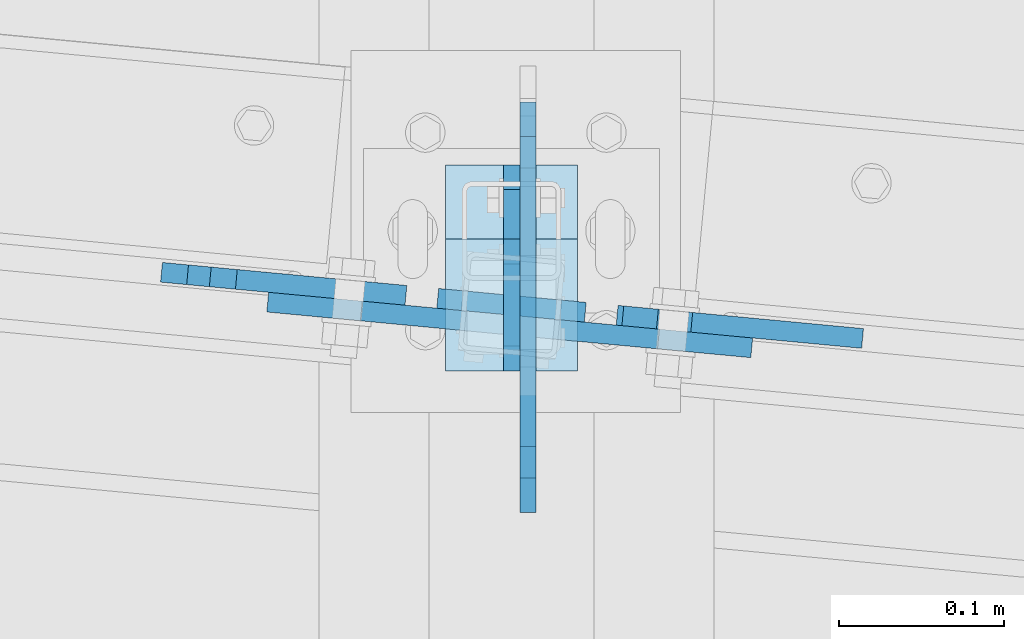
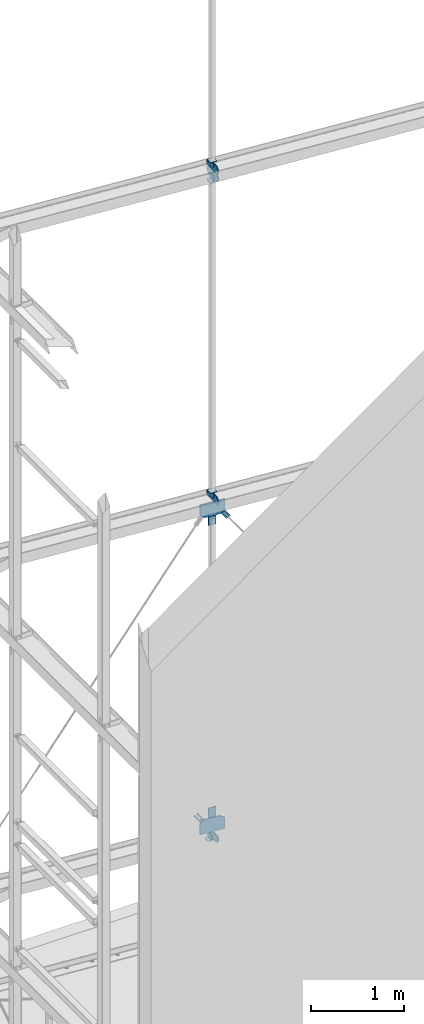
# One storey, part 155 of 271: 18 plates, 9 elements without a shape of their own.
"""IFC2X3 building model written with IfcOpenShell, lengths in millimetres."""

from ifc_helpers import new_model, si_unit, frame, origin_with_axes, place, context, subcontext, project, spatial, polyline, outline, extrude, material, type_object, element, aggregate, save


model = new_model("IFC2X3")

# Units and contexts
model_context = context("Model", 3, precision=1e-05, world=origin_with_axes())
body_context = subcontext(model_context, "Body", "Model", "MODEL_VIEW")
ifc_project = project(units=[si_unit("LENGTHUNIT", "METRE", prefix="MILLI"), si_unit("AREAUNIT", "SQUARE_METRE"), si_unit("VOLUMEUNIT", "CUBIC_METRE"), si_unit("MASSUNIT", "GRAM", prefix="KILO"), si_unit("TIMEUNIT", "SECOND"), si_unit("PLANEANGLEUNIT", "RADIAN"), si_unit("SOLIDANGLEUNIT", "STERADIAN"), si_unit("THERMODYNAMICTEMPERATUREUNIT", "DEGREE_CELSIUS"), si_unit("LUMINOUSINTENSITYUNIT", "LUMEN")], contexts=[model_context])

# Site, building, storey
site_placement = place(None, origin_with_axes())
site = spatial("IfcSite", under=ifc_project, at=site_placement, Name="Undefined", CompositionType="ELEMENT")
building_placement = place(site_placement, origin_with_axes())
building = spatial("IfcBuilding", under=site, at=building_placement, Name="Undefined", CompositionType="ELEMENT")
storey_placement = place(building_placement, origin_with_axes())
storey = spatial("IfcBuildingStorey", under=building, at=storey_placement, Name="Undefined", CompositionType="ELEMENT", Elevation=0.0)

# Assembly, plate
assembly_1_placement = place(storey_placement, origin_with_axes())
assembly_1 = element("IfcElementAssembly", 1, at=assembly_1_placement, inside=storey, AssemblyPlace="NOTDEFINED", PredefinedType="RIGID_FRAME")
ifc_material = material(Name="STEEL/S355JR")
plate_type_1 = type_object("IfcPlateType", Name="BL12*56", PredefinedType="NOTDEFINED")
plate_1_placement = place(assembly_1_placement, frame((3232.51490190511, 3999.06894896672, 5546.23705119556), z_axis=(0.0939660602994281, 0.995575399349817, -6.10020992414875e-05), x_axis=(0.162762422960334, -0.0153016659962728, 0.986546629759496)))
plate_1 = element("IfcPlate", 2, at=plate_1_placement, type_object=plate_type_1, material=ifc_material, Name="BLACHA", ObjectType="BL12*56", context=body_context, shape_type="SweptSolid", body=[
    extrude(outline(polyline([(0.0, 0.0), (21.2132034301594, 1.09139364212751e-11), (39.5646629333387, 18.3514595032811), (39.5646629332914, 39.564662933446), (-87.007453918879, 166.136779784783), (-100.796035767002, 152.34819030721), (-30.0853557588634, 81.6375198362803), (-42.0728530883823, 69.6500167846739), (-112.783531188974, 140.36070251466), (-126.57211303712, 126.57211303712), (0.0, 0.0)])), frame((0.0, 0.0, -6.0), z_axis=(0.0, 0.0, 1.0), x_axis=(1.0, 0.0, 0.0)), (0.0, 0.0, 1.0), 12.0),
])
aggregate(assembly_1, [plate_1])

assembly_2_placement = place(storey_placement, origin_with_axes())
assembly_2 = element("IfcElementAssembly", 3, at=assembly_2_placement, inside=storey, AssemblyPlace="NOTDEFINED", PredefinedType="RIGID_FRAME")
plate_2_placement = place(assembly_2_placement, frame((3104.23941246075, 4011.17988390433, 1503.71824826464), z_axis=(0.0938759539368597, 0.995583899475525, 6.61630780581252e-05), x_axis=(-0.167720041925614, 0.0158802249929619, -0.985706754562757)))
plate_2 = element("IfcPlate", 4, at=plate_2_placement, type_object=plate_type_1, material=ifc_material, Name="BLACHA", ObjectType="BL12*56", context=body_context, shape_type="SweptSolid", body=[
    extrude(outline(polyline([(0.0, 0.0), (21.2132034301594, 1.09139364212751e-11), (39.564743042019, 18.3515396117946), (39.5647430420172, 39.5647430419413), (-87.0073471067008, 166.13687133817), (-100.795928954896, 152.348297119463), (-30.0852527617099, 81.637619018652), (-42.0728530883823, 69.6500167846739), (-112.783531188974, 140.36070251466), (-126.57211303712, 126.57211303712), (0.0, 0.0)])), frame((0.0, 0.0, -6.0), z_axis=(0.0, 0.0, 1.0), x_axis=(1.0, 0.0, 0.0)), (0.0, 0.0, 1.0), 12.0),
])
aggregate(assembly_2, [plate_2])

assembly_3_placement = place(storey_placement, origin_with_axes())
assembly_3 = element("IfcElementAssembly", 5, at=assembly_3_placement, inside=storey, AssemblyPlace="NOTDEFINED", PredefinedType="RIGID_FRAME")
plate_type_2 = type_object("IfcPlateType", Name="BL10*70", PredefinedType="NOTDEFINED")
plate_3_placement = place(assembly_3_placement, frame((3168.37568709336, 4010.32498425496, 1295.74999995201), z_axis=(-1.0, 0.0, 1.38777878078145e-17), x_axis=(0.0, 0.707106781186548, 0.707106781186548)))
plate_3 = element("IfcPlate", 6, at=plate_3_placement, type_object=plate_type_2, material=ifc_material, Name="BLACHA", ObjectType="BL10*70", context=body_context, shape_type="SweptSolid", body=[
    extrude(outline(polyline([(0.0, 0.0), (21.2132034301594, 1.09139364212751e-11), (56.5685424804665, 35.3553390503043), (56.568542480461, 56.5685424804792), (17.6776695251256, 95.4594192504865), (-38.890872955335, 38.8908729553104), (0.0, 0.0)])), frame((0.0, 0.0, -5.0), z_axis=(0.0, 0.0, 1.0), x_axis=(1.0, 0.0, 0.0)), (0.0, 0.0, 1.0), 10.0),
])

# Assembly, plates
assembly_4_placement = place(storey_placement, origin_with_axes())
assembly_4 = element("IfcElementAssembly", 7, at=assembly_4_placement, inside=storey, AssemblyPlace="NOTDEFINED", PredefinedType="RIGID_FRAME")
plate_4_placement = place(assembly_4_placement, frame((3168.37568709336, 4045.32498425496, 5752.94999985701), z_axis=(-1.0, 0.0, 1.38777878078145e-17), x_axis=(0.0, -0.707106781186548, -0.707106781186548)))
plate_4 = element("IfcPlate", 8, at=plate_4_placement, type_object=plate_type_2, material=ifc_material, Name="BLACHA", ObjectType="BL10*70", context=body_context, shape_type="SweptSolid", body=[
    extrude(outline(polyline([(0.0, 0.0), (21.2132034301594, 1.09139364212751e-11), (56.5685424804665, 35.3553390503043), (56.568542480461, 56.5685424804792), (17.6776695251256, 95.4594192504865), (-38.890872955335, 38.8908729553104), (0.0, 0.0)])), frame((0.0, 0.0, -5.0), z_axis=(0.0, 0.0, 1.0), x_axis=(1.0, 0.0, 0.0)), (0.0, 0.0, 1.0), 10.0),
])
plate_5_placement = place(assembly_4_placement, frame((3168.37568709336, 3965.32498425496, 9935.74999995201), z_axis=(-1.0, 0.0, 1.38777878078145e-17), x_axis=(0.0, 0.707106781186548, 0.707106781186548)))
plate_5 = element("IfcPlate", 9, at=plate_5_placement, type_object=plate_type_2, material=ifc_material, Name="BLACHA", ObjectType="BL10*70", context=body_context, shape_type="SweptSolid", body=[
    extrude(outline(polyline([(0.0, 0.0), (21.2132034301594, 1.09139364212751e-11), (56.5685424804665, 35.3553390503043), (56.568542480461, 56.5685424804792), (17.6776695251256, 95.4594192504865), (-38.890872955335, 38.8908729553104), (0.0, 0.0)])), frame((0.0, 0.0, -5.0), z_axis=(0.0, 0.0, 1.0), x_axis=(1.0, 0.0, 0.0)), (0.0, 0.0, 1.0), 10.0),
])

# Assembly, plate
assembly_5_placement = place(storey_placement, origin_with_axes())
assembly_5 = element("IfcElementAssembly", 10, at=assembly_5_placement, inside=storey, AssemblyPlace="NOTDEFINED", PredefinedType="RIGID_FRAME")
plate_6_placement = place(assembly_5_placement, frame((3168.37568709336, 4045.32498425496, 10072.949999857), z_axis=(-1.0, 0.0, 1.38777878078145e-17), x_axis=(0.0, -0.707106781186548, -0.707106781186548)))
plate_6 = element("IfcPlate", 11, at=plate_6_placement, type_object=plate_type_2, material=ifc_material, Name="BLACHA", ObjectType="BL10*70", context=body_context, shape_type="SweptSolid", body=[
    extrude(outline(polyline([(0.0, 0.0), (21.2132034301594, 1.09139364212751e-11), (56.5685424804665, 35.3553390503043), (56.568542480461, 56.5685424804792), (17.6776695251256, 95.4594192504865), (-38.890872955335, 38.8908729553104), (0.0, 0.0)])), frame((0.0, 0.0, -5.0), z_axis=(0.0, 0.0, 1.0), x_axis=(1.0, 0.0, 0.0)), (0.0, 0.0, 1.0), 10.0),
])

assembly_6_placement = place(storey_placement, origin_with_axes())
assembly_6 = element("IfcElementAssembly", 12, at=assembly_6_placement, inside=storey, AssemblyPlace="NOTDEFINED", PredefinedType="RIGID_FRAME")
plate_type_3 = type_object("IfcPlateType", Name="BL10*100", PredefinedType="NOTDEFINED")
plate_7_placement = place(assembly_6_placement, frame((3178.37568709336, 4128.56343339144, 1360.74999995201), z_axis=(-1.0, 0.0, 1.38777878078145e-17), x_axis=(0.0, 0.0, -1.0)))
plate_7 = element("IfcPlate", 13, at=plate_7_placement, type_object=plate_type_3, material=ifc_material, Name="BLACHA", ObjectType="BL10*100", context=body_context, shape_type="SweptSolid", body=[
    extrude(outline(polyline([(0.0, 20.7716979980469), (20.7716979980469, 8.17124146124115e-14), (60.0, 4.44089209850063e-13), (100.0, 40.0000000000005), (100.0, 209.16485595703), (60.0, 249.16485595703), (20.7716979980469, 249.16485595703), (0.0, 228.393157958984), (0.0, 20.7716979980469)])), frame((0.0, 0.0, -5.0), z_axis=(0.0, 0.0, 1.0), x_axis=(1.0, 0.0, 0.0)), (0.0, 0.0, 1.0), 10.0),
])

assembly_7_placement = place(storey_placement, origin_with_axes())
assembly_7 = element("IfcElementAssembly", 14, at=assembly_7_placement, inside=storey, AssemblyPlace="NOTDEFINED", PredefinedType="RIGID_FRAME")
plate_8_placement = place(assembly_7_placement, frame((3178.37568709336, 3879.39857406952, 5687.94999985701), z_axis=(-1.0, 0.0, 1.38777878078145e-17), x_axis=(0.0, 0.0, 1.0)))
plate_8 = element("IfcPlate", 15, at=plate_8_placement, type_object=plate_type_3, material=ifc_material, Name="BLACHA", ObjectType="BL10*100", context=body_context, shape_type="SweptSolid", body=[
    extrude(outline(polyline([(0.0, 20.7716979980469), (20.7716979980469, 8.17124146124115e-14), (60.0, 4.44089209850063e-13), (100.0, 40.0000000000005), (100.0, 209.16485595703), (60.0, 249.16485595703), (20.7716979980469, 249.16485595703), (0.0, 228.393157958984), (0.0, 20.7716979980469)])), frame((0.0, 0.0, -5.0), z_axis=(0.0, 0.0, 1.0), x_axis=(1.0, 0.0, 0.0)), (0.0, 0.0, 1.0), 10.0),
])

# Assembly, plates
assembly_8_placement = place(storey_placement, origin_with_axes())
assembly_8 = element("IfcElementAssembly", 16, at=assembly_8_placement, inside=storey, AssemblyPlace="NOTDEFINED", PredefinedType="RIGID_FRAME")
plate_9_placement = place(assembly_8_placement, frame((3178.37568709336, 4128.56343339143, 10000.749999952), z_axis=(-1.0, 0.0, 1.38777878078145e-17), x_axis=(0.0, 0.0, -1.0)))
plate_9 = element("IfcPlate", 17, at=plate_9_placement, type_object=plate_type_3, material=ifc_material, Name="BLACHA", ObjectType="BL10*100", context=body_context, shape_type="SweptSolid", body=[
    extrude(outline(polyline([(0.0, 20.7716979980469), (20.7716979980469, 8.17124146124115e-14), (60.0, 4.44089209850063e-13), (100.0, 40.0000000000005), (100.0, 209.16485595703), (60.0, 249.16485595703), (20.7716979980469, 249.16485595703), (0.0, 228.393157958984), (0.0, 20.7716979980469)])), frame((0.0, 0.0, -5.0), z_axis=(0.0, 0.0, 1.0), x_axis=(1.0, 0.0, 0.0)), (0.0, 0.0, 1.0), 10.0),
])
plate_10_placement = place(assembly_8_placement, frame((3178.37568709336, 3879.39857406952, 10007.949999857), z_axis=(-1.0, 0.0, 1.38777878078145e-17), x_axis=(0.0, 0.0, 1.0)))
plate_10 = element("IfcPlate", 18, at=plate_10_placement, type_object=plate_type_3, material=ifc_material, Name="BLACHA", ObjectType="BL10*100", context=body_context, shape_type="SweptSolid", body=[
    extrude(outline(polyline([(0.0, 20.7716979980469), (20.7716979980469, 8.17124146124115e-14), (60.0, 4.44089209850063e-13), (100.0, 40.0000000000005), (100.0, 209.16485595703), (60.0, 249.16485595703), (20.7716979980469, 249.16485595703), (0.0, 228.393157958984), (0.0, 20.7716979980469)])), frame((0.0, 0.0, -5.0), z_axis=(0.0, 0.0, 1.0), x_axis=(1.0, 0.0, 0.0)), (0.0, 0.0, 1.0), 10.0),
])
aggregate(assembly_8, [plate_9, plate_10])

# Plate
plate_type_4 = type_object("IfcPlateType", Name="BL8*80", PredefinedType="NOTDEFINED")
plate_11_placement = place(assembly_3_placement, frame((3208.37568709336, 4010.32498425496, 1236.74999995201), z_axis=(0.0, 0.0, 1.0), x_axis=(0.0, 1.0, 0.0)))
plate_11 = element("IfcPlate", 19, at=plate_11_placement, type_object=plate_type_4, material=ifc_material, Name="BLACHA", ObjectType="BL8*80", context=body_context, shape_type="SweptSolid", body=[
    extrude(outline(polyline([(0.0, 0.0), (80.0, 0.0), (80.0, 80.0), (0.0, 80.0), (0.0, 0.0)])), frame((0.0, 0.0, -4.0), z_axis=(0.0, 0.0, 1.0), x_axis=(1.0, 0.0, 0.0)), (0.0, 0.0, 1.0), 8.0),
])

aggregate(assembly_3, [plate_11, plate_3])

plate_12_placement = place(assembly_4_placement, frame((3208.37568709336, 4045.32498425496, 5811.94999985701), z_axis=(0.0, 0.0, -1.0), x_axis=(0.0, -1.0, 0.0)))
plate_12 = element("IfcPlate", 20, at=plate_12_placement, type_object=plate_type_4, material=ifc_material, Name="BLACHA", ObjectType="BL8*80", context=body_context, shape_type="SweptSolid", body=[
    extrude(outline(polyline([(0.0, 0.0), (80.0, 0.0), (80.0, 80.0), (0.0, 80.0), (0.0, 0.0)])), frame((0.0, 0.0, -4.0), z_axis=(0.0, 0.0, 1.0), x_axis=(1.0, 0.0, 0.0)), (0.0, 0.0, 1.0), 8.0),
])

plate_13_placement = place(assembly_4_placement, frame((3208.37568709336, 3965.32498425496, 9876.74999995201), z_axis=(0.0, 0.0, 1.0), x_axis=(0.0, 1.0, 0.0)))
plate_13 = element("IfcPlate", 21, at=plate_13_placement, type_object=plate_type_4, material=ifc_material, Name="BLACHA", ObjectType="BL8*80", context=body_context, shape_type="SweptSolid", body=[
    extrude(outline(polyline([(0.0, 0.0), (80.0, 0.0), (80.0, 80.0), (0.0, 80.0), (0.0, 0.0)])), frame((0.0, 0.0, -4.0), z_axis=(0.0, 0.0, 1.0), x_axis=(1.0, 0.0, 0.0)), (0.0, 0.0, 1.0), 8.0),
])

aggregate(assembly_4, [plate_12, plate_4, plate_13, plate_5])

plate_14_placement = place(assembly_5_placement, frame((3208.37568709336, 4045.32498425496, 10131.949999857), z_axis=(0.0, 0.0, -1.0), x_axis=(0.0, -1.0, 0.0)))
plate_14 = element("IfcPlate", 22, at=plate_14_placement, type_object=plate_type_4, material=ifc_material, Name="BLACHA", ObjectType="BL8*80", context=body_context, shape_type="SweptSolid", body=[
    extrude(outline(polyline([(0.0, 0.0), (80.0, 0.0), (80.0, 80.0), (0.0, 80.0), (0.0, 0.0)])), frame((0.0, 0.0, -4.0), z_axis=(0.0, 0.0, 1.0), x_axis=(1.0, 0.0, 0.0)), (0.0, 0.0, 1.0), 8.0),
])

aggregate(assembly_5, [plate_14, plate_6])

# Assembly, plates
assembly_9_placement = place(storey_placement, origin_with_axes())
assembly_9 = element("IfcElementAssembly", 23, at=assembly_9_placement, inside=storey, AssemblyPlace="NOTDEFINED", PredefinedType="RIGID_FRAME")
plate_type_5 = type_object("IfcPlateType", Name="BL12*90", PredefinedType="NOTDEFINED")
plate_15_placement = place(assembly_9_placement, frame((3123.55446874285, 4009.3380099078, 5531.03851014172), z_axis=(0.0939225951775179, 0.99557950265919, -3.73312492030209e-15), x_axis=(0.703981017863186, -0.0664133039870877, 0.707106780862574)))
plate_15 = element("IfcPlate", 24, at=plate_15_placement, type_object=plate_type_5, material=ifc_material, Name="BLACHA", ObjectType="BL12*90", context=body_context, shape_type="SweptSolid", body=[
    extrude(outline(polyline([(0.0, 0.0), (21.2132034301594, 1.09139364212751e-11), (63.6396102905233, 42.4264068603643), (63.6396102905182, 63.6396102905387), (-48.7903671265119, 176.069595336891), (-59.0431632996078, 165.816787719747), (-112.42997741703, 112.429977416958), (0.0, 0.0)])), frame((0.0, 0.0, -6.0), z_axis=(0.0, 0.0, 1.0), x_axis=(1.0, 0.0, 0.0)), (0.0, 0.0, 1.0), 12.0),
])
plate_16_placement = place(assembly_9_placement, frame((3213.15804725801, 4000.90006243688, 1517.66261887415), z_axis=(0.0939225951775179, 0.99557950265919, -3.73312492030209e-15), x_axis=(-0.703981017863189, 0.0664133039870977, -0.707106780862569)))
plate_16 = element("IfcPlate", 25, at=plate_16_placement, type_object=plate_type_5, material=ifc_material, Name="BLACHA", ObjectType="BL12*90", context=body_context, shape_type="SweptSolid", body=[
    extrude(outline(polyline([(0.0, 0.0), (21.2132034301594, 1.09139364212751e-11), (63.6396102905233, 42.4264068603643), (63.6396102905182, 63.6396102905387), (-48.7903671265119, 176.069595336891), (-59.0431632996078, 165.816787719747), (-112.42997741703, 112.429977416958), (0.0, 0.0)])), frame((0.0, 0.0, -6.0), z_axis=(0.0, 0.0, 1.0), x_axis=(1.0, 0.0, 0.0)), (0.0, 0.0, 1.0), 12.0),
])
aggregate(assembly_9, [plate_15, plate_16])

# Plate
plate_type_6 = type_object("IfcPlateType", Name="BL12*185", PredefinedType="NOTDEFINED")
plate_17_placement = place(assembly_7_placement, frame((3020.30047239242, 4007.03175020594, 5681.049999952), z_axis=(0.0939225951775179, 0.99557950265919, -3.73312492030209e-15), x_axis=(0.995579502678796, -0.0939225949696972, 0.0)))
plate_17 = element("IfcPlate", 26, at=plate_17_placement, type_object=plate_type_6, material=ifc_material, Name="BLACHA", ObjectType="BL12*185", context=body_context, shape_type="SweptSolid", body=[
    extrude(outline(polyline([(0.0, 0.0), (295.245025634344, 0.0), (295.245025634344, 142.885437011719), (238.32160949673, 183.625152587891), (197.581893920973, 185.011474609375), (57.1288414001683, 185.011474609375), (1.2732925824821e-11, 144.560317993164), (0.0, 0.0)])), frame((0.0, 0.0, -6.0), z_axis=(0.0, 0.0, 1.0), x_axis=(1.0, 0.0, 0.0)), (0.0, 0.0, 1.0), 12.0),
])

aggregate(assembly_7, [plate_17, plate_8])

plate_18_placement = place(assembly_6_placement, frame((3314.25367310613, 3979.30945850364, 1367.64999985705), z_axis=(0.0939225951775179, 0.99557950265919, -3.73312492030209e-15), x_axis=(-0.995579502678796, 0.0939225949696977, 0.0)))
plate_18 = element("IfcPlate", 27, at=plate_18_placement, type_object=plate_type_6, material=ifc_material, Name="BLACHA", ObjectType="BL12*185", context=body_context, shape_type="SweptSolid", body=[
    extrude(outline(polyline([(0.0, 0.0), (295.258331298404, 3.63797880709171e-12), (295.258331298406, 144.561477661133), (238.129486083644, 185.012619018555), (97.6748123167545, 185.012619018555), (56.8939399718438, 183.429458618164), (5.45696821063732e-12, 142.648590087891), (0.0, 0.0)])), frame((0.0, 0.0, -6.0), z_axis=(0.0, 0.0, 1.0), x_axis=(1.0, 0.0, 0.0)), (0.0, 0.0, 1.0), 12.0),
])

aggregate(assembly_6, [plate_18, plate_7])

save(model, "model.ifc")
